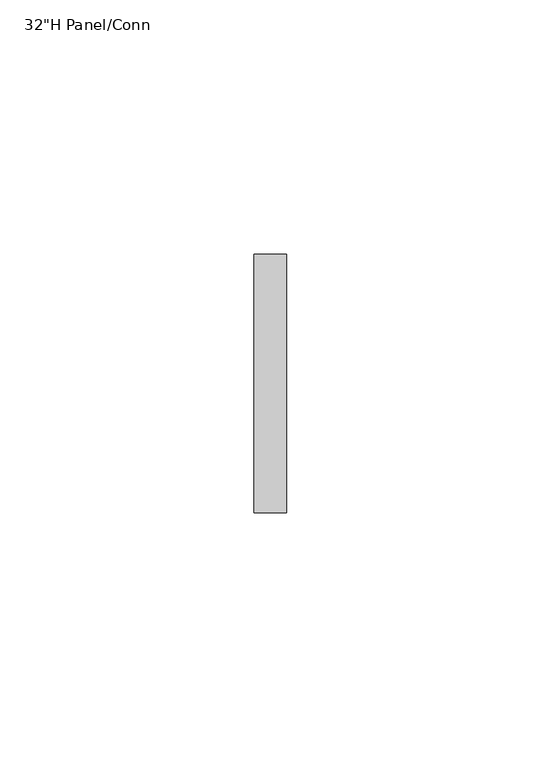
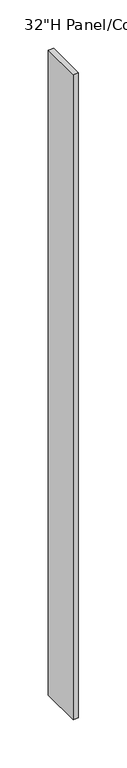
"""IFC4 building model written with IfcOpenShell, lengths in millimetres: furniture geometry."""

from ifc_helpers import new_model, si_unit, frame, origin, place, context, project, spatial, polyline, outline, extrude, source, transform, mapped, element, save


def furniture_d2009061(model_context):
    return source(origin(), model_context, "Body", "SweptSolid", [
        extrude(outline(polyline([(-60.5209988, 104.9709924), (-60.5209967, 54.1709916), (-66.8709967, 54.1709914), (-66.8709988, 104.9709922), (-60.5209988, 104.9709924)])), frame((0.0, 0.0, 95.2500015), z_axis=(0.0, 0.0, 1.0), x_axis=(1.0, 0.0, 0.0)), (0.0, 0.0, 1.0), 812.8),
    ])


if __name__ == "__main__":
    model = new_model("IFC4")
    model_context = context("Model", 3, world=origin())
    ifc_project = project(units=[si_unit("LENGTHUNIT", "METRE", prefix="MILLI")], contexts=[model_context])
    site = spatial("IfcSite", under=ifc_project)
    building = spatial("IfcBuilding", under=site)
    placement = place(None, origin())
    furniture_shape = furniture_d2009061(model_context)
    element("IfcFurniture", 1, ObjectType="HermanMiller_ActionOffice_AO259_AO272_FinishedEndChangeOfHeight : 32\"H Panel/Conn", at=placement, inside=building, context=model_context, shape_type="MappedRepresentation", body=[
        mapped(furniture_shape, transform((0.0, 0.0, 0.0), x_axis=(1.0, 0.0, 0.0), y_axis=(0.0, 1.0, 0.0), z_axis=(0.0, 0.0, 1.0))),
    ])
    save(model, "model.ifc")
